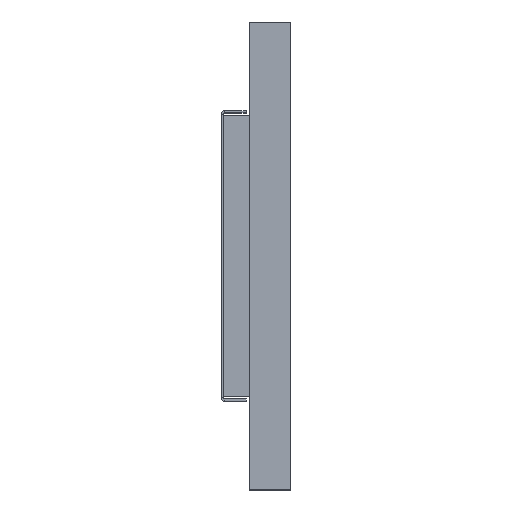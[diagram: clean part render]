
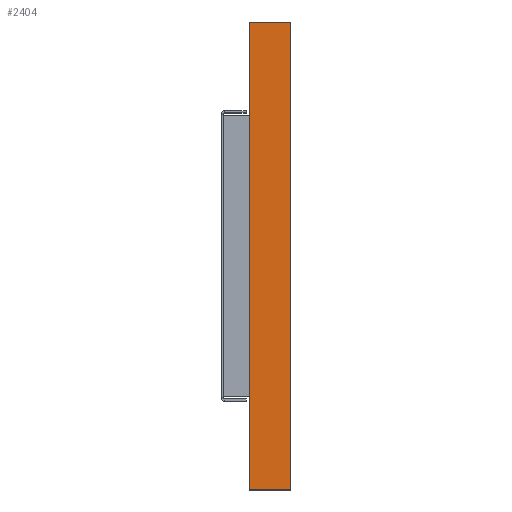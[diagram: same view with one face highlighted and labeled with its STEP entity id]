
A CAD part, left-side view. The second image highlights one B-rep face of the part: STEP entity #2404.
In plain terms, the highlighted planar face has unit normal (-1, 0, 0).
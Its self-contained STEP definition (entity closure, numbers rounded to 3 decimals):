
#114 = CARTESIAN_POINT ( 'NONE',  ( -258.592, -12.233, 36. ) ) ;
#117 = EDGE_CURVE ( 'NONE', #2094, #914, #2528, .T. ) ;
#203 = CARTESIAN_POINT ( 'NONE',  ( -258.592, -12.233, -9. ) ) ;
#272 = AXIS2_PLACEMENT_3D ( 'NONE', #610, #1571, #3129 ) ;
#364 = EDGE_LOOP ( 'NONE', ( #2202, #3062, #1789, #1826 ) ) ;
#370 = LINE ( 'NONE', #1361, #2549 ) ;
#395 = DIRECTION ( 'NONE',  ( 0., -1., 0. ) ) ;
#599 = LINE ( 'NONE', #1634, #2866 ) ;
#610 = CARTESIAN_POINT ( 'NONE',  ( -258.592, -8.233, -9. ) ) ;
#669 = VECTOR ( 'NONE', #395, 1000. ) ;
#740 = DIRECTION ( 'NONE',  ( 0., 0., 1. ) ) ;
#791 = CARTESIAN_POINT ( 'NONE',  ( -258.592, -8.233, 36. ) ) ;
#852 = CARTESIAN_POINT ( 'NONE',  ( -258.592, -12.233, -9. ) ) ;
#914 = VERTEX_POINT ( 'NONE', #114 ) ;
#1136 = PLANE ( 'NONE',  #272 ) ;
#1184 = CARTESIAN_POINT ( 'NONE',  ( -258.592, -8.233, -9. ) ) ;
#1337 = EDGE_CURVE ( 'NONE', #3234, #2094, #2741, .T. ) ;
#1361 = CARTESIAN_POINT ( 'NONE',  ( -258.592, -8.233, -9. ) ) ;
#1571 = DIRECTION ( 'NONE',  ( 1., 0., 0. ) ) ;
#1592 = FACE_OUTER_BOUND ( 'NONE', #364, .T. ) ;
#1634 = CARTESIAN_POINT ( 'NONE',  ( -258.592, -8.233, 36. ) ) ;
#1789 = ORIENTED_EDGE ( 'NONE', *, *, #2640, .F. ) ;
#1826 = ORIENTED_EDGE ( 'NONE', *, *, #1337, .T. ) ;
#1859 = DIRECTION ( 'NONE',  ( 0., -1., 0. ) ) ;
#1873 = DIRECTION ( 'NONE',  ( 0., 0., 1. ) ) ;
#1927 = VERTEX_POINT ( 'NONE', #791 ) ;
#2094 = VERTEX_POINT ( 'NONE', #852 ) ;
#2202 = ORIENTED_EDGE ( 'NONE', *, *, #117, .T. ) ;
#2389 = CARTESIAN_POINT ( 'NONE',  ( -258.592, -8.233, -9. ) ) ;
#2404 = ADVANCED_FACE ( 'NONE', ( #1592 ), #1136, .F. ) ;
#2528 = LINE ( 'NONE', #203, #2682 ) ;
#2549 = VECTOR ( 'NONE', #1873, 1000. ) ;
#2596 = EDGE_CURVE ( 'NONE', #1927, #914, #599, .T. ) ;
#2640 = EDGE_CURVE ( 'NONE', #3234, #1927, #370, .T. ) ;
#2682 = VECTOR ( 'NONE', #740, 1000. ) ;
#2741 = LINE ( 'NONE', #1184, #669 ) ;
#2866 = VECTOR ( 'NONE', #1859, 1000. ) ;
#3062 = ORIENTED_EDGE ( 'NONE', *, *, #2596, .F. ) ;
#3129 = DIRECTION ( 'NONE',  ( 0., 0., -1. ) ) ;
#3234 = VERTEX_POINT ( 'NONE', #2389 ) ;
